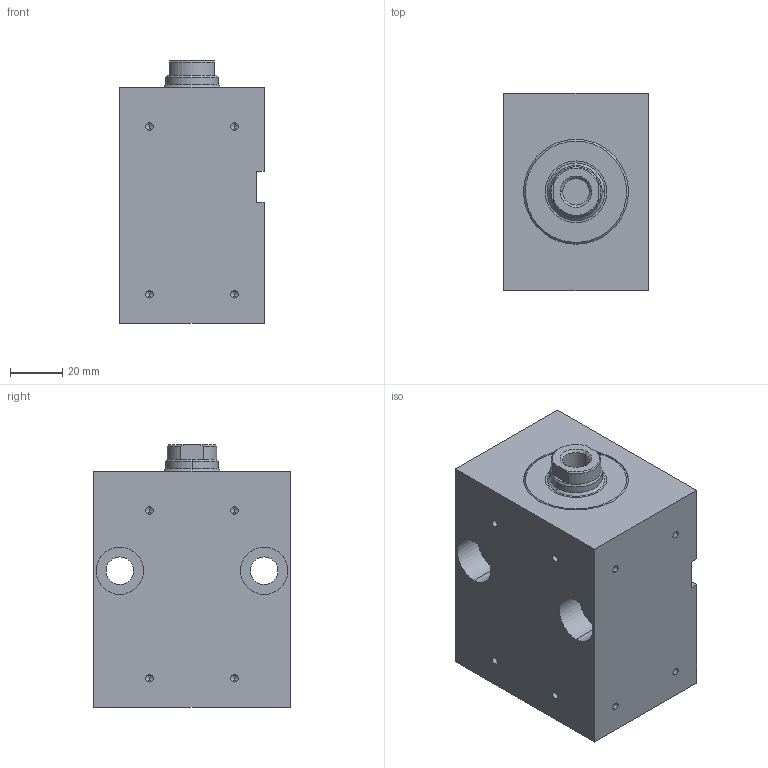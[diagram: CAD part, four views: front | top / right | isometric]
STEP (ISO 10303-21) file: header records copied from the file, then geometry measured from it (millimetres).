
FILE_DESCRIPTION (( 'STEP AP203' ), '1' );
FILE_NAME ('BZ_500.32_20.33.201.040 PP.NS38__DH_0_.STEP', '2022-05-10T15:37:33', ( '' ), ( '' ), 'SwSTEP 2.0', 'SolidWorks 2020', '' );
FILE_SCHEMA (( 'CONFIG_CONTROL_DESIGN' ));
Length unit declared in the file: millimetre
Products named in the file (7): _Kolbenstange komplett f. BZ_RZ_FZ.32_20.xx.201.40(0_11 1 12 1.75 0 0 10 15 0 0 0)0^BZ_500.32_20.33.201.040 PP.NS38__DH_0_(2)_BZ_500.32_20.33.201.040 PP.NS38__DH_0_; _O-Ring 9x2 - Art. 104351^BZ_500.32_20.33.201.040 PP.NS38__DH_0_(2)_BZ_500.32_20.33.201.040 PP.NS38__DH_0_; _Gehaeuse f. BZ500.32_20.33.201.40.N1.m (m = Nut spiegelbildlich38)Nut rechts, Senkungen links00(138frei1330220))7^BZ_500.32_20.33.201.040 PP.NS38__DH_0_(2)_BZ_500.32_20.33.201.040 PP.NS38__DH~; _Dichtungssatz f. BZ_RZ_FZ.32_20.xx.201.40 Artikelnr._ 013411(0)^BZ_500.32_20.33.201.040 PP.NS38__DH_0_(2)_BZ_500.32_20.33.201.040 PP.NS38__DH_0_; BZ_500.32_20.33.201.040 PP.NS38__DH_0_(2)^BZ_500.32_20.33.201.040 PP.NS38__DH_0_; BZ_500.32_20.33.201.040 PP.NS38__DH_0_; _Verschraubung komplett mit Dichtung f. BZ_RZ_FZ.32_20.201, Art.-Nr._ 041671(201)^BZ_500.32_20.33.201.040 PP.NS38__DH_0_(2)_BZ_500.32_20.33.201.040 PP.NS38__DH_0_
Assembly tree (7 placements, depth 3):
  BZ_500.32_20.33.201.040 PP.NS38__DH_0_
    BZ_500.32_20.33.201.040 PP.NS38__DH_0_(2)^BZ_500.32_20.33.201.040 PP.NS38__DH_0_
      _Gehaeuse f. BZ500.32_20.33.201.40.N1.m (m = Nut spiegelbildlich38)Nut rechts, Senkungen links00(138frei1330220))7^BZ_500.32_20.33.201.040 PP.NS38__DH_0_(2)_BZ_500.32_20.33.201.040 PP.NS38__DH~
      _Verschraubung komplett mit Dichtung f. BZ_RZ_FZ.32_20.201, Art.-Nr._ 041671(201)^BZ_500.32_20.33.201.040 PP.NS38__DH_0_(2)_BZ_500.32_20.33.201.040 PP.NS38__DH_0_
      _Dichtungssatz f. BZ_RZ_FZ.32_20.xx.201.40 Artikelnr._ 013411(0)^BZ_500.32_20.33.201.040 PP.NS38__DH_0_(2)_BZ_500.32_20.33.201.040 PP.NS38__DH_0_
      _Kolbenstange komplett f. BZ_RZ_FZ.32_20.xx.201.40(0_11 1 12 1.75 0 0 10 15 0 0 0)0^BZ_500.32_20.33.201.040 PP.NS38__DH_0_(2)_BZ_500.32_20.33.201.040 PP.NS38__DH_0_
      _O-Ring 9x2 - Art. 104351^BZ_500.32_20.33.201.040 PP.NS38__DH_0_(2)_BZ_500.32_20.33.201.040 PP.NS38__DH_0_  x2
Bounding box: 55 x 75 x 100 mm (x, y, z)
Volume: 335862.6 mm3; surface area: 62447.4 mm2
Topology: 6 solids, 6 shells, 154 faces, 353 edges, 209 vertices
Faces by surface type: cylinder 70, plane 38, cone 34, torus 12
Entity records: 4834 total; most frequent: DIRECTION 783, CARTESIAN_POINT 727, ORIENTED_EDGE 626, AXIS2_PLACEMENT_3D 323, EDGE_CURVE 313, VERTEX_POINT 199, EDGE_LOOP 182, CIRCLE 166
